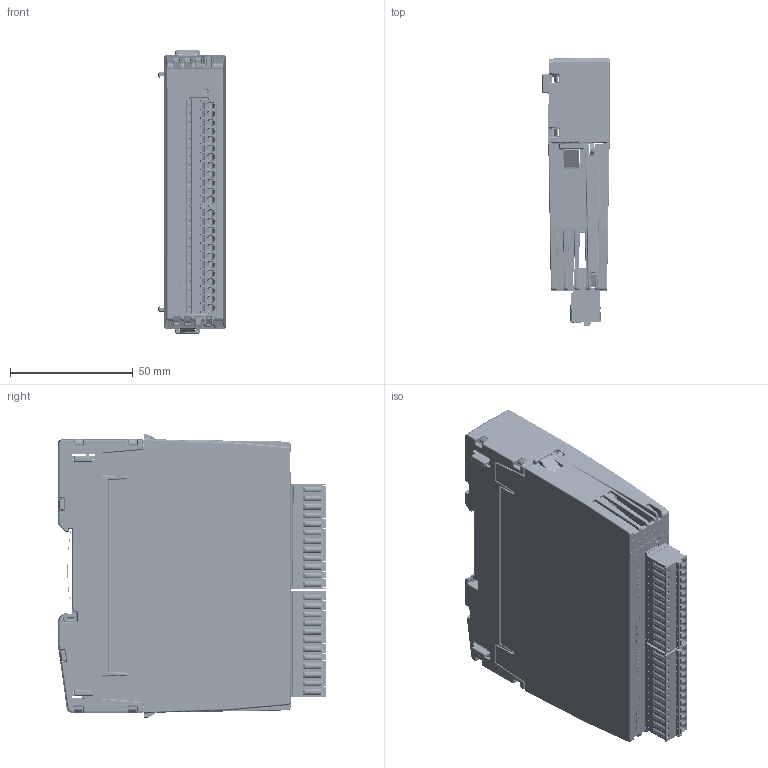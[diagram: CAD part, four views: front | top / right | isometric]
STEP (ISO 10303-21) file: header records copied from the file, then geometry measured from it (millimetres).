
FILE_DESCRIPTION(/* description */ (''),/* implementation_level */ '2;1');
FILE_NAME(/* name */ 'C:\Users\Public\Documents\Autodesk\Inventor 2023\DO08R_Simplified+BackBB21A.stp',/* time_stamp */ '2024-10-16T19:54:16+02:00',/* author */ ('shoma'),/* organization */ (''),/* preprocessor_version */ 'ST-DEVELOPER v19',/* originating_system */ 'Autodesk Inventor 2023',/* authorisation */ '');
FILE_SCHEMA (('AUTOMOTIVE_DESIGN { 1 0 10303 214 3 1 1 }'));
Products named in the file (1): DO08R_Simplified+BackBB21A
Bounding box: 27.4 x 109.39 x 115.5 mm (x, y, z)
Volume: 155135.3 mm3; surface area: 94473.8 mm2
Topology: 7 solids, 57 shells, 9489 faces, 25231 edges, 15916 vertices
Faces by surface type: plane 5760, cylinder 2404, bspline 881, cone 237, sphere 162, torus 45
Full cylindrical faces by diameter (mm): 0.296 x2, 0.3 x152, 0.457 x2, 0.7 x36, 0.8 x6, 0.85 x24, 0.9 x8, 1.17 x24, 1.2 x24, 1.25 x24, 1.3 x24, 1.4 x4, 1.6 x26, 2.35 x2, 2.5 x1, 3 x1, 3.1 x24, 3.25 x2
Entity records: 328136 total; most frequent: CARTESIAN_POINT 83957, ORIENTED_EDGE 50156, DIRECTION 46410, EDGE_CURVE 25078, LINE 17776, VECTOR 17776, VERTEX_POINT 15916, AXIS2_PLACEMENT_3D 14317
